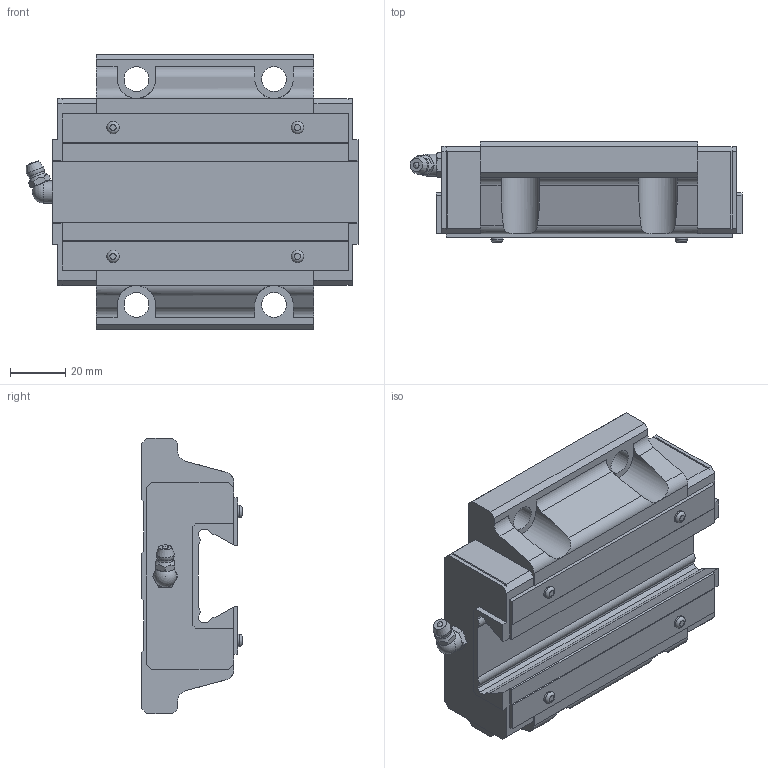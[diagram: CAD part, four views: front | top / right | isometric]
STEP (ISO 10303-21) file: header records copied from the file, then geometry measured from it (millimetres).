
FILE_DESCRIPTION(/* description */ ('STEP AP214'),/* implementation_level */ '2;1');
FILE_NAME(/* name */ 'SR35TB1SS(GK) BLOCK(B-M6F)',/* time_stamp */ '2023-06-01T08:31:00+02:00',/* author */ ('License CC BY-ND 4.0'),/* organization */ ('CADENAS'),/* preprocessor_version */ 'ST-DEVELOPER v19.3',/* originating_system */ 'PARTsolutions',/* authorisation */ ' ');
FILE_SCHEMA (('AUTOMOTIVE_DESIGN {1 0 10303 214 3 1 1}'));
Length unit declared in the file: millimetre
Products named in the file (3): SR35TB1SS(GK) BLOCK(B-M6F); SR-B-M6F_grease_nipple_joint; SR35TBSSB-M6F S
Assembly tree (2 placements, depth 2):
  SR35TB1SS(GK) BLOCK(B-M6F)
    SR-B-M6F_grease_nipple_joint
    SR35TBSSB-M6F S
Bounding box: 120.6 x 36.5 x 100 mm (x, y, z)
Volume: 246676.6 mm3; surface area: 38640.4 mm2
Topology: 2 solids, 2 shells, 184 faces, 506 edges, 331 vertices
Faces by surface type: plane 132, cylinder 30, cone 13, torus 6, sphere 3
Full cylindrical faces by diameter (mm): 4.5 x4, 4.917 x2, 6 x1, 8 x1, 9 x4
Entity records: 5759 total; most frequent: CARTESIAN_POINT 1122, ORIENTED_EDGE 940, DIRECTION 906, EDGE_CURVE 470, LINE 352, VECTOR 352, VERTEX_POINT 325, AXIS2_PLACEMENT_3D 277
